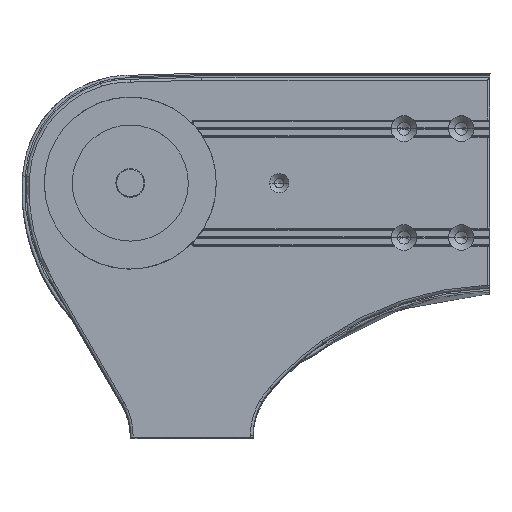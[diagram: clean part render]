
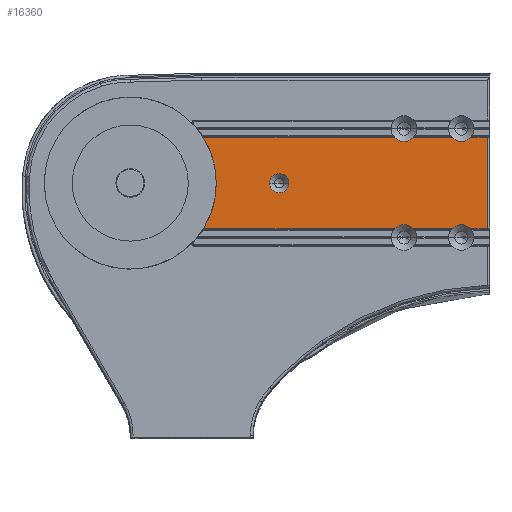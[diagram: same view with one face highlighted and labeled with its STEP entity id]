
A CAD part, top view. The second image highlights one B-rep face of the part: STEP entity #16360.
In plain terms, the highlighted planar face has unit normal (0, 0, 1).
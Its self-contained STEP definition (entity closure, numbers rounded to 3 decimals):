
#81 = ORIENTED_EDGE ( 'NONE', *, *, #15502, .F. ) ;
#289 = EDGE_CURVE ( 'NONE', #11393, #9712, #2879, .T. ) ;
#809 = VERTEX_POINT ( 'NONE', #8496 ) ;
#905 = DIRECTION ( 'NONE',  ( 1., 0., 0. ) ) ;
#992 = CARTESIAN_POINT ( 'NONE',  ( 191.04, 38., 250. ) ) ;
#1041 = CARTESIAN_POINT ( 'NONE',  ( 51.247, 32., 250. ) ) ;
#1147 = CARTESIAN_POINT ( 'NONE',  ( 60., 0., 250. ) ) ;
#1272 = CARTESIAN_POINT ( 'NONE',  ( 198.113, 32., 250. ) ) ;
#1837 = CARTESIAN_POINT ( 'NONE',  ( 231.04, 38., 250. ) ) ;
#1946 = EDGE_CURVE ( 'NONE', #10285, #809, #5002, .T. ) ;
#1947 = VERTEX_POINT ( 'NONE', #8141 ) ;
#2017 = VERTEX_POINT ( 'NONE', #9726 ) ;
#2031 = VERTEX_POINT ( 'NONE', #9920 ) ;
#2355 = CARTESIAN_POINT ( 'NONE',  ( 197.694, 32., 250. ) ) ;
#2365 = DIRECTION ( 'NONE',  ( 1., 0., 0. ) ) ;
#2434 = CARTESIAN_POINT ( 'NONE',  ( 249.04, 32.5, 250. ) ) ;
#2519 = EDGE_LOOP ( 'NONE', ( #7224, #4191, #14888, #15751, #15149, #81, #10671, #9621, #12763, #4952, #5441, #6560, #12131, #15019, #13506 ) ) ;
#2745 = ORIENTED_EDGE ( 'NONE', *, *, #17653, .F. ) ;
#2879 = LINE ( 'NONE', #2434, #16093 ) ;
#2982 = AXIS2_PLACEMENT_3D ( 'NONE', #14418, #12982, #9867 ) ;
#3077 = VECTOR ( 'NONE', #20076, 1000. ) ;
#3140 = EDGE_CURVE ( 'NONE', #12334, #809, #7443, .T. ) ;
#3184 = DIRECTION ( 'NONE',  ( -1., 0., 0. ) ) ;
#3237 = CARTESIAN_POINT ( 'NONE',  ( -44.001, -176.306, 250. ) ) ;
#3818 = CIRCLE ( 'NONE', #18831, 8.96 ) ;
#4191 = ORIENTED_EDGE ( 'NONE', *, *, #1946, .F. ) ;
#4365 = DIRECTION ( 'NONE',  ( 0., 0., 1. ) ) ;
#4439 = VERTEX_POINT ( 'NONE', #17369 ) ;
#4952 = ORIENTED_EDGE ( 'NONE', *, *, #289, .T. ) ;
#5002 = CIRCLE ( 'NONE', #14642, 60. ) ;
#5004 = DIRECTION ( 'NONE',  ( 0., 0., 1. ) ) ;
#5441 = ORIENTED_EDGE ( 'NONE', *, *, #6049, .T. ) ;
#5442 = CARTESIAN_POINT ( 'NONE',  ( 51.247, 34., 250. ) ) ;
#5664 = CIRCLE ( 'NONE', #7768, 6.72 ) ;
#5716 = DIRECTION ( 'NONE',  ( 0., 0., -1. ) ) ;
#5921 = CIRCLE ( 'NONE', #11695, 6.72 ) ;
#6049 = EDGE_CURVE ( 'NONE', #9712, #19937, #6352, .T. ) ;
#6305 = EDGE_CURVE ( 'NONE', #10785, #10285, #18523, .T. ) ;
#6352 = LINE ( 'NONE', #11605, #16365 ) ;
#6560 = ORIENTED_EDGE ( 'NONE', *, *, #14042, .F. ) ;
#6623 = LINE ( 'NONE', #10842, #18610 ) ;
#6962 = DIRECTION ( 'NONE',  ( -1., 0., 0. ) ) ;
#6990 = EDGE_CURVE ( 'NONE', #19853, #18673, #3818, .T. ) ;
#7123 = EDGE_CURVE ( 'NONE', #1947, #7951, #18242, .T. ) ;
#7159 = DIRECTION ( 'NONE',  ( 0., 0., 1. ) ) ;
#7224 = ORIENTED_EDGE ( 'NONE', *, *, #3140, .T. ) ;
#7301 = DIRECTION ( 'NONE',  ( 1., 0., 0. ) ) ;
#7443 = CIRCLE ( 'NONE', #10904, 2. ) ;
#7539 = CARTESIAN_POINT ( 'NONE',  ( 249.04, 32., 250. ) ) ;
#7768 = AXIS2_PLACEMENT_3D ( 'NONE', #9146, #4365, #7301 ) ;
#7951 = VERTEX_POINT ( 'NONE', #18364 ) ;
#8094 = AXIS2_PLACEMENT_3D ( 'NONE', #1837, #5004, #15713 ) ;
#8141 = CARTESIAN_POINT ( 'NONE',  ( 51.247, -32., 250. ) ) ;
#8368 = DIRECTION ( 'NONE',  ( 1., 0., 0. ) ) ;
#8496 = CARTESIAN_POINT ( 'NONE',  ( 50.707, 32.074, 250. ) ) ;
#8760 = DIRECTION ( 'NONE',  ( 0., 0., 1. ) ) ;
#8887 = VERTEX_POINT ( 'NONE', #19762 ) ;
#9146 = CARTESIAN_POINT ( 'NONE',  ( 104., 0., 250. ) ) ;
#9193 = ORIENTED_EDGE ( 'NONE', *, *, #17473, .F. ) ;
#9356 = LINE ( 'NONE', #16216, #18847 ) ;
#9621 = ORIENTED_EDGE ( 'NONE', *, *, #16131, .F. ) ;
#9657 = VECTOR ( 'NONE', #15423, 1000. ) ;
#9712 = VERTEX_POINT ( 'NONE', #7539 ) ;
#9726 = CARTESIAN_POINT ( 'NONE',  ( 224.385, 32., 250. ) ) ;
#9867 = DIRECTION ( 'NONE',  ( 1., 0., 0. ) ) ;
#9920 = CARTESIAN_POINT ( 'NONE',  ( 97.28, 0., 250. ) ) ;
#10008 = LINE ( 'NONE', #16937, #17816 ) ;
#10025 = EDGE_CURVE ( 'NONE', #19853, #12334, #6623, .T. ) ;
#10050 = EDGE_LOOP ( 'NONE', ( #2745, #9193 ) ) ;
#10230 = DIRECTION ( 'NONE',  ( 1., 0., 0. ) ) ;
#10246 = DIRECTION ( 'NONE',  ( 0., 1., 0. ) ) ;
#10285 = VERTEX_POINT ( 'NONE', #1147 ) ;
#10376 = CIRCLE ( 'NONE', #12188, 2. ) ;
#10671 = ORIENTED_EDGE ( 'NONE', *, *, #10761, .T. ) ;
#10761 = EDGE_CURVE ( 'NONE', #19940, #8887, #10008, .T. ) ;
#10785 = VERTEX_POINT ( 'NONE', #20219 ) ;
#10842 = CARTESIAN_POINT ( 'NONE',  ( 51.247, 32., 250. ) ) ;
#10904 = AXIS2_PLACEMENT_3D ( 'NONE', #5442, #5716, #10230 ) ;
#10950 = DIRECTION ( 'NONE',  ( 0., 0., 1. ) ) ;
#11393 = VERTEX_POINT ( 'NONE', #18551 ) ;
#11448 = DIRECTION ( 'NONE',  ( 0., 0., -1. ) ) ;
#11605 = CARTESIAN_POINT ( 'NONE',  ( 238.113, 32., 250. ) ) ;
#11611 = FACE_BOUND ( 'NONE', #10050, .T. ) ;
#11695 = AXIS2_PLACEMENT_3D ( 'NONE', #16243, #19585, #905 ) ;
#12117 = DIRECTION ( 'NONE',  ( 1., 0., 0. ) ) ;
#12131 = ORIENTED_EDGE ( 'NONE', *, *, #16047, .T. ) ;
#12188 = AXIS2_PLACEMENT_3D ( 'NONE', #19433, #11448, #8368 ) ;
#12334 = VERTEX_POINT ( 'NONE', #1041 ) ;
#12365 = CARTESIAN_POINT ( 'NONE',  ( 191.04, -38., 250. ) ) ;
#12497 = DIRECTION ( 'NONE',  ( 1., 0., 0. ) ) ;
#12523 = DIRECTION ( 'NONE',  ( 1., 0., 0. ) ) ;
#12763 = ORIENTED_EDGE ( 'NONE', *, *, #17749, .T. ) ;
#12982 = DIRECTION ( 'NONE',  ( 0., 0., 1. ) ) ;
#13209 = DIRECTION ( 'NONE',  ( 1., 0., 0. ) ) ;
#13506 = ORIENTED_EDGE ( 'NONE', *, *, #10025, .T. ) ;
#13880 = CARTESIAN_POINT ( 'NONE',  ( 237.694, 32., 250. ) ) ;
#14042 = EDGE_CURVE ( 'NONE', #2017, #19937, #18315, .T. ) ;
#14264 = CARTESIAN_POINT ( 'NONE',  ( 0., 0., 250. ) ) ;
#14418 = CARTESIAN_POINT ( 'NONE',  ( 0., 0., 250. ) ) ;
#14494 = AXIS2_PLACEMENT_3D ( 'NONE', #12365, #18402, #12117 ) ;
#14513 = LINE ( 'NONE', #1272, #9657 ) ;
#14642 = AXIS2_PLACEMENT_3D ( 'NONE', #14264, #10950, #12497 ) ;
#14774 = AXIS2_PLACEMENT_3D ( 'NONE', #16514, #7159, #13209 ) ;
#14888 = ORIENTED_EDGE ( 'NONE', *, *, #6305, .F. ) ;
#15019 = ORIENTED_EDGE ( 'NONE', *, *, #6990, .F. ) ;
#15149 = ORIENTED_EDGE ( 'NONE', *, *, #7123, .T. ) ;
#15410 = CARTESIAN_POINT ( 'NONE',  ( 183.967, -32., 250. ) ) ;
#15423 = DIRECTION ( 'NONE',  ( -1., 0., 0. ) ) ;
#15502 = EDGE_CURVE ( 'NONE', #19940, #7951, #16532, .T. ) ;
#15713 = DIRECTION ( 'NONE',  ( 1., 0., 0. ) ) ;
#15751 = ORIENTED_EDGE ( 'NONE', *, *, #16546, .T. ) ;
#15760 = FACE_OUTER_BOUND ( 'NONE', #2519, .T. ) ;
#15834 = AXIS2_PLACEMENT_3D ( 'NONE', #3237, #15880, #12523 ) ;
#15880 = DIRECTION ( 'NONE',  ( 0., 0., 1. ) ) ;
#16047 = EDGE_CURVE ( 'NONE', #2017, #18673, #14513, .T. ) ;
#16093 = VECTOR ( 'NONE', #10246, 1000. ) ;
#16131 = EDGE_CURVE ( 'NONE', #19681, #8887, #19688, .T. ) ;
#16216 = CARTESIAN_POINT ( 'NONE',  ( 249.04, -32., 250. ) ) ;
#16243 = CARTESIAN_POINT ( 'NONE',  ( 104., 0., 250. ) ) ;
#16360 = ADVANCED_FACE ( 'NONE', ( #11611, #15760 ), #17385, .T. ) ;
#16365 = VECTOR ( 'NONE', #6962, 1000. ) ;
#16514 = CARTESIAN_POINT ( 'NONE',  ( 231.04, -38., 250. ) ) ;
#16532 = CIRCLE ( 'NONE', #14494, 8.96 ) ;
#16546 = EDGE_CURVE ( 'NONE', #10785, #1947, #10376, .T. ) ;
#16632 = CARTESIAN_POINT ( 'NONE',  ( 184.385, 32., 250. ) ) ;
#16869 = DIRECTION ( 'NONE',  ( 1., 0., 0. ) ) ;
#16937 = CARTESIAN_POINT ( 'NONE',  ( 223.967, -32., 250. ) ) ;
#17172 = CARTESIAN_POINT ( 'NONE',  ( 197.694, -32., 250. ) ) ;
#17369 = CARTESIAN_POINT ( 'NONE',  ( 110.72, 0., 250. ) ) ;
#17385 = PLANE ( 'NONE',  #15834 ) ;
#17473 = EDGE_CURVE ( 'NONE', #2031, #4439, #5921, .T. ) ;
#17653 = EDGE_CURVE ( 'NONE', #4439, #2031, #5664, .T. ) ;
#17718 = DIRECTION ( 'NONE',  ( 1., 0., 0. ) ) ;
#17749 = EDGE_CURVE ( 'NONE', #19681, #11393, #9356, .T. ) ;
#17816 = VECTOR ( 'NONE', #16869, 1000. ) ;
#18242 = LINE ( 'NONE', #15410, #3077 ) ;
#18315 = CIRCLE ( 'NONE', #8094, 8.96 ) ;
#18364 = CARTESIAN_POINT ( 'NONE',  ( 184.385, -32., 250. ) ) ;
#18402 = DIRECTION ( 'NONE',  ( 0., 0., 1. ) ) ;
#18523 = CIRCLE ( 'NONE', #2982, 60. ) ;
#18551 = CARTESIAN_POINT ( 'NONE',  ( 249.04, -32., 250. ) ) ;
#18610 = VECTOR ( 'NONE', #3184, 1000. ) ;
#18673 = VERTEX_POINT ( 'NONE', #2355 ) ;
#18831 = AXIS2_PLACEMENT_3D ( 'NONE', #992, #8760, #2365 ) ;
#18847 = VECTOR ( 'NONE', #17718, 1000. ) ;
#19298 = CARTESIAN_POINT ( 'NONE',  ( 237.694, -32., 250. ) ) ;
#19433 = CARTESIAN_POINT ( 'NONE',  ( 51.247, -34., 250. ) ) ;
#19585 = DIRECTION ( 'NONE',  ( 0., 0., 1. ) ) ;
#19681 = VERTEX_POINT ( 'NONE', #19298 ) ;
#19688 = CIRCLE ( 'NONE', #14774, 8.96 ) ;
#19762 = CARTESIAN_POINT ( 'NONE',  ( 224.385, -32., 250. ) ) ;
#19853 = VERTEX_POINT ( 'NONE', #16632 ) ;
#19937 = VERTEX_POINT ( 'NONE', #13880 ) ;
#19940 = VERTEX_POINT ( 'NONE', #17172 ) ;
#20076 = DIRECTION ( 'NONE',  ( 1., 0., 0. ) ) ;
#20219 = CARTESIAN_POINT ( 'NONE',  ( 50.707, -32.074, 250. ) ) ;
